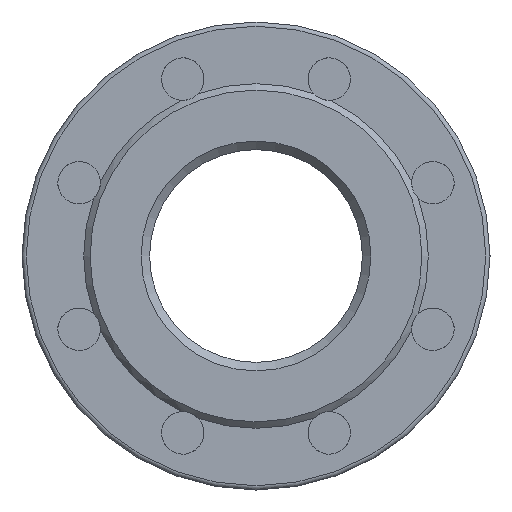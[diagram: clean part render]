
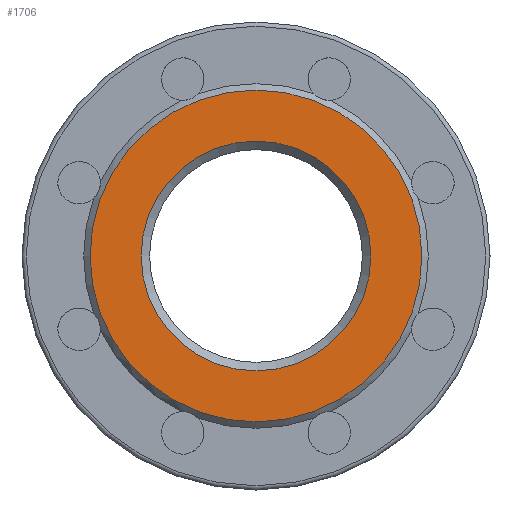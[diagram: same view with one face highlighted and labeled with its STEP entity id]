
A CAD part, left-side view. The second image highlights one B-rep face of the part: STEP entity #1706.
In plain terms, the highlighted planar face has unit normal (-1, 0, 0).
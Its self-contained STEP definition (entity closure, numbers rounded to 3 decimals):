
#497 = CARTESIAN_POINT ( 'NONE',  ( -250., 0., 0. ) ) ;
#498 = DIRECTION ( 'NONE',  ( 1., 0., 0. ) ) ;
#499 = DIRECTION ( 'NONE',  ( 0., 0., -1. ) ) ;
#541 = AXIS2_PLACEMENT_3D ( 'NONE', #3414, #3415, #3416 ) ;
#737 = AXIS2_PLACEMENT_3D ( 'NONE', #497, #498, #499 ) ;
#814 = AXIS2_PLACEMENT_3D ( 'NONE', #2979, #2985, #2986 ) ;
#1404 = ORIENTED_EDGE ( 'NONE', *, *, #2337, .T. ) ;
#1409 = ORIENTED_EDGE ( 'NONE', *, *, #2494, .T. ) ;
#1661 = EDGE_LOOP ( 'NONE', ( #1409 ) ) ;
#1706 = ADVANCED_FACE ( 'NONE', ( #1845, #1849 ), #2981, .F. ) ;
#1845 = FACE_OUTER_BOUND ( 'NONE', #1661, .T. ) ;
#1849 = FACE_BOUND ( 'NONE', #2416, .T. ) ;
#1952 = CIRCLE ( 'NONE', #737, 54. ) ;
#1994 = CIRCLE ( 'NONE', #541, 78. ) ;
#2020 = VERTEX_POINT ( 'NONE', #3440 ) ;
#2039 = VERTEX_POINT ( 'NONE', #3459 ) ;
#2337 = EDGE_CURVE ( 'NONE', #2020, #2020, #1952, .T. ) ;
#2416 = EDGE_LOOP ( 'NONE', ( #1404 ) ) ;
#2494 = EDGE_CURVE ( 'NONE', #2039, #2039, #1994, .T. ) ;
#2979 = CARTESIAN_POINT ( 'NONE',  ( -250., 50., 0. ) ) ;
#2981 = PLANE ( 'NONE',  #814 ) ;
#2985 = DIRECTION ( 'NONE',  ( 1., 0., 0. ) ) ;
#2986 = DIRECTION ( 'NONE',  ( 0., 0., -1. ) ) ;
#3414 = CARTESIAN_POINT ( 'NONE',  ( -250., 0., 0. ) ) ;
#3415 = DIRECTION ( 'NONE',  ( -1., 0., 0. ) ) ;
#3416 = DIRECTION ( 'NONE',  ( 0., 0., 1. ) ) ;
#3440 = CARTESIAN_POINT ( 'NONE',  ( -250., 0., -54. ) ) ;
#3459 = CARTESIAN_POINT ( 'NONE',  ( -250., 0., 78. ) ) ;
